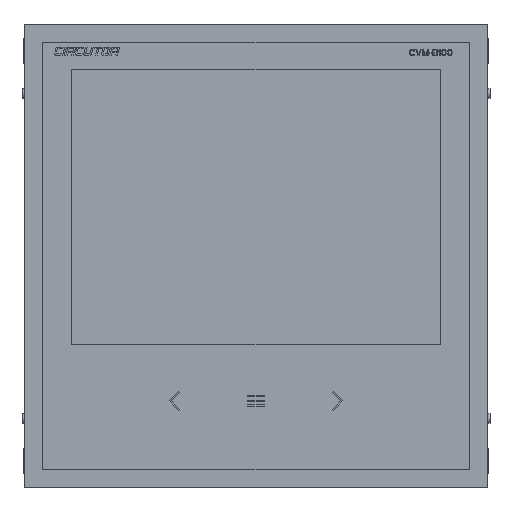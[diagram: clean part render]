
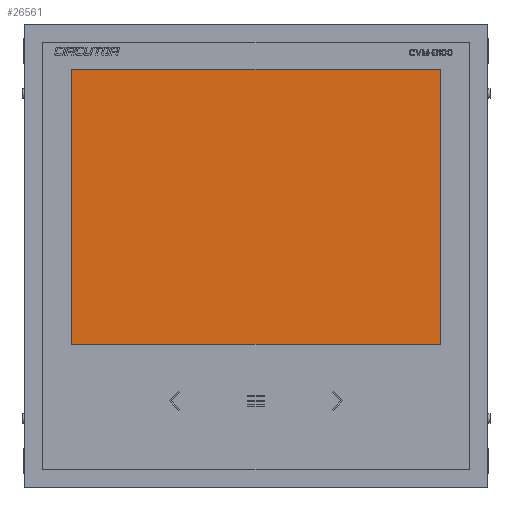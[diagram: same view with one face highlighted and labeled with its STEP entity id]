
A CAD part, top view. The second image highlights one B-rep face of the part: STEP entity #26561.
In plain terms, the highlighted planar face has unit normal (0, 0, 1).
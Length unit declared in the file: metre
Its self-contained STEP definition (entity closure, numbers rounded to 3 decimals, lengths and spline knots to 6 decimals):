
#10157=DIRECTION('',(1.,0.,0.));
#10158=VECTOR('',#10157,0.1145);
#10159=CARTESIAN_POINT('',(-0.05725,0.058,-0.0006));
#10160=LINE('',#10159,#10158);
#10169=DIRECTION('',(0.,-1.,0.));
#10170=VECTOR('',#10169,0.0855);
#10171=CARTESIAN_POINT('',(0.05725,0.058,-0.0006));
#10172=LINE('',#10171,#10170);
#10185=DIRECTION('',(-1.,0.,0.));
#10186=VECTOR('',#10185,0.1145);
#10187=CARTESIAN_POINT('',(0.05725,-0.0275,-0.0006));
#10188=LINE('',#10187,#10186);
#10201=DIRECTION('',(0.,-1.,0.));
#10202=VECTOR('',#10201,0.0855);
#10203=CARTESIAN_POINT('',(-0.05725,0.058,-0.0006));
#10204=LINE('',#10203,#10202);
#12574=CARTESIAN_POINT('',(-0.05725,0.058,-0.0006));
#12575=CARTESIAN_POINT('',(-0.05725,-0.0275,-0.0006));
#12576=VERTEX_POINT('',#12574);
#12577=VERTEX_POINT('',#12575);
#12578=CARTESIAN_POINT('',(0.05725,0.058,-0.0006));
#12579=VERTEX_POINT('',#12578);
#12580=CARTESIAN_POINT('',(0.05725,-0.0275,-0.0006));
#12581=VERTEX_POINT('',#12580);
#26550=CARTESIAN_POINT('',(0.,0.,-0.0006));
#26551=DIRECTION('',(0.,0.,1.));
#26552=DIRECTION('',(1.,0.,0.));
#26553=AXIS2_PLACEMENT_3D('',#26550,#26551,#26552);
#26554=PLANE('',#26553);
#26555=ORIENTED_EDGE('',*,*,#26516,.T.);
#26556=ORIENTED_EDGE('',*,*,#26536,.F.);
#26557=ORIENTED_EDGE('',*,*,#26473,.T.);
#26558=ORIENTED_EDGE('',*,*,#26495,.T.);
#26559=EDGE_LOOP('',(#26555,#26556,#26557,#26558));
#26560=FACE_OUTER_BOUND('',#26559,.F.);
#26473=EDGE_CURVE('',#12576,#12579,#10160,.T.);
#26495=EDGE_CURVE('',#12579,#12581,#10172,.T.);
#26516=EDGE_CURVE('',#12581,#12577,#10188,.T.);
#26536=EDGE_CURVE('',#12576,#12577,#10204,.T.);
#26561=ADVANCED_FACE('',(#26560),#26554,.T.);
